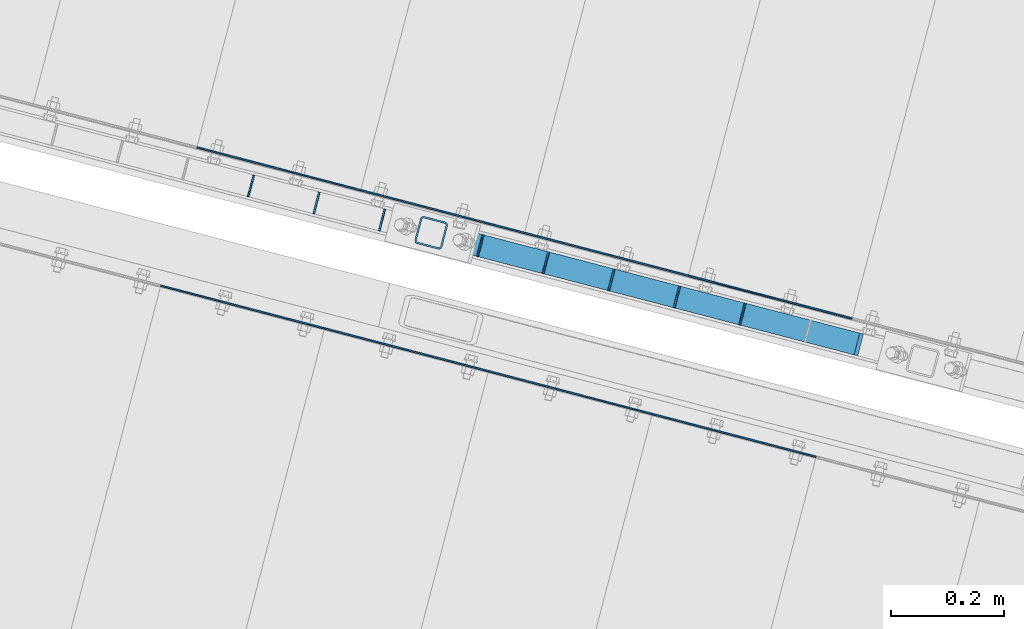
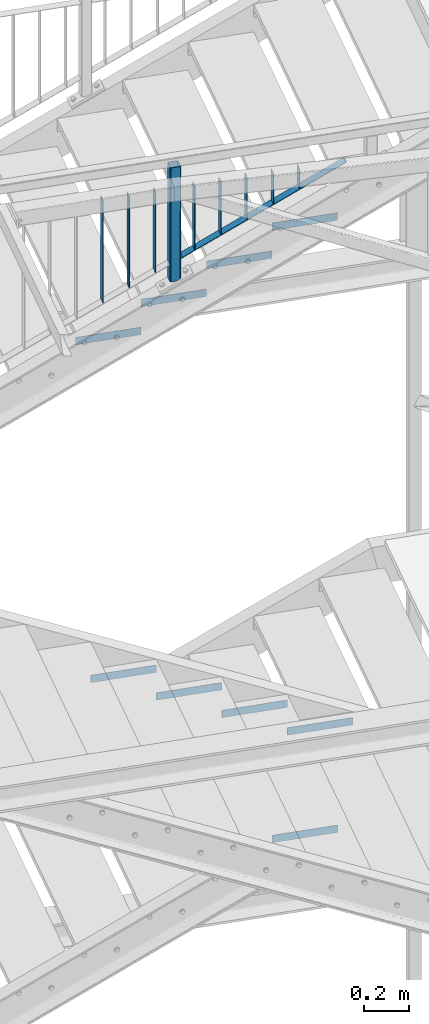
# One storey, part 67 of 169: 19 discrete accessories, 10 elements without a shape of their own.
"""IFC2X3 building model written with IfcOpenShell, lengths in millimetres."""

from ifc_helpers import new_model, si_unit, frame, origin_with_axes, origin_2d_with_axis, place, context, subcontext, project, spatial, polyline, rectangle, hollow_rectangle, outline, extrude, boolean, clip, halfspace, material, type_object, element, aggregate, save


model = new_model("IFC2X3")

# Units and contexts
model_context = context("Model", 3, precision=1e-05, world=origin_with_axes())
body_context = subcontext(model_context, "Body", "Model", "MODEL_VIEW")
ifc_project = project(units=[si_unit("LENGTHUNIT", "METRE", prefix="MILLI"), si_unit("AREAUNIT", "SQUARE_METRE"), si_unit("VOLUMEUNIT", "CUBIC_METRE"), si_unit("MASSUNIT", "GRAM", prefix="KILO"), si_unit("TIMEUNIT", "SECOND"), si_unit("PLANEANGLEUNIT", "RADIAN"), si_unit("SOLIDANGLEUNIT", "STERADIAN"), si_unit("THERMODYNAMICTEMPERATUREUNIT", "DEGREE_CELSIUS"), si_unit("LUMINOUSINTENSITYUNIT", "LUMEN")], contexts=[model_context])

# Site, building, storey
site_placement = place(None, origin_with_axes())
site = spatial("IfcSite", under=ifc_project, at=site_placement, Name="Undefined", CompositionType="ELEMENT")
building_placement = place(site_placement, origin_with_axes())
building = spatial("IfcBuilding", under=site, at=building_placement, Name="Undefined", CompositionType="ELEMENT")
storey_placement = place(building_placement, origin_with_axes())
storey = spatial("IfcBuildingStorey", under=building, at=storey_placement, Name="Undefined", CompositionType="ELEMENT", Elevation=0.0)

# Assembly, discrete accessories
assembly_1_placement = place(storey_placement, origin_with_axes())
assembly_1 = element("IfcElementAssembly", 1, at=assembly_1_placement, inside=storey, Name="Steel Assembly", AssemblyPlace="NOTDEFINED", PredefinedType="RIGID_FRAME")
ifc_material_1 = material(Name="STEEL/S235")
discrete_accessory_type_1 = type_object("IfcDiscreteAccessoryType", Name="PORĘCZ")
discrete_accessory_1_placement = place(assembly_1_placement, frame((-26371.7445928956, 6964.7239905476, 14257.1970276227), z_axis=(-0.967563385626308, 0.252628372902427, -1.72000000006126e-07), x_axis=(-3.45692487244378e-05, -0.000132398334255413, -0.999999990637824)))
discrete_accessory_1 = element("IfcDiscreteAccessory", 2, at=discrete_accessory_1_placement, type_object=discrete_accessory_type_1, material=ifc_material_1, Name="PORĘCZ", ObjectType="BL40*3", context=body_context, shape_type="Clipping", body=[
    clip(clip(extrude(outline(polyline([(953.32294910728, 20.0000000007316), (953.322949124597, -19.9999999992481), (398.49999999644, -19.9999999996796), (398.499999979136, 20.0000000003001), (953.32294910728, 20.0000000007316)])), frame((1.81898940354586e-12, -1.77635442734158e-15, -1.50000000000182), z_axis=(0.0, 0.0, 1.0), x_axis=(1.0, 0.0, 0.0)), (0.0, 0.0, 1.0), 3.0), halfspace(frame((398.499999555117, 1000.00000000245, -1.19107426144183e-08), z_axis=(1.0, 0.0, 0.0), x_axis=(-2.54700353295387e-10, 0.0, -1.0)), True)), halfspace(frame((953.658358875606, 1000.00000000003, 0.670820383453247), z_axis=(-0.89442719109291, -3.87067713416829e-10, 0.44721359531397), x_axis=(0.44721359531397, 3.3177479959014e-10, 0.89442719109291)), True)),
])
discrete_accessory_2_placement = place(assembly_1_placement, frame((-26255.6349124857, 6934.41652970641, 14317.1970269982), z_axis=(-0.967563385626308, 0.252628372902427, -1.72000000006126e-07), x_axis=(-3.45692487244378e-05, -0.000132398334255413, -0.999999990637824)))
discrete_accessory_2 = element("IfcDiscreteAccessory", 3, at=discrete_accessory_2_placement, type_object=discrete_accessory_type_1, material=ifc_material_1, Name="PORĘCZ", ObjectType="BL40*3", context=body_context, shape_type="Clipping", body=[
    clip(clip(extrude(outline(polyline([(953.32294910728, 20.0000000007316), (953.322949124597, -19.9999999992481), (458.49999993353, -19.9999999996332), (458.499999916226, 20.0000000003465), (953.32294910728, 20.0000000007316)])), frame((1.81898940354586e-12, -1.77635442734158e-15, -1.50000000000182), z_axis=(0.0, 0.0, 1.0), x_axis=(1.0, 0.0, 0.0)), (0.0, 0.0, 1.0), 3.0), halfspace(frame((458.499999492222, 1000.00000000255, -1.23291101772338e-08), z_axis=(1.0, 0.0, 0.0), x_axis=(-2.54700353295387e-10, 0.0, -1.0)), True)), halfspace(frame((953.658358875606, 1000.00000000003, 0.670820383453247), z_axis=(-0.89442719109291, -3.87067713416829e-10, 0.44721359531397), x_axis=(0.44721359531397, 3.3177479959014e-10, 0.89442719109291)), True)),
])
discrete_accessory_3_placement = place(assembly_1_placement, frame((-26139.5425164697, 6904.04286984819, 13877.1970310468), z_axis=(-0.967563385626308, 0.252628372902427, -1.72000000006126e-07), x_axis=(-3.45692487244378e-05, -0.000132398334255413, -0.999999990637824)))
discrete_accessory_3 = element("IfcDiscreteAccessory", 4, at=discrete_accessory_3_placement, type_object=discrete_accessory_type_1, material=ifc_material_1, Name="PORĘCZ", ObjectType="BL40*3", context=body_context, shape_type="Clipping", body=[
    clip(clip(extrude(outline(polyline([(453.32294900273, 19.9999999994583), (453.322948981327, -20.0000000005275), (18.4999998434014, -20.0000000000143), (18.4999998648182, 19.9999999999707), (453.32294900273, 19.9999999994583)])), frame((1.81898940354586e-12, -1.77635442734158e-15, -1.50000000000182), z_axis=(0.0, 0.0, 1.0), x_axis=(1.0, 0.0, 0.0)), (0.0, 0.0, 1.0), 3.0), halfspace(frame((18.5000003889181, 1000.0000000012, -1.23618519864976e-08), z_axis=(1.0, 0.0, 0.0), x_axis=(-2.54700353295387e-10, 0.0, -1.0)), True)), halfspace(frame((453.658359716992, 1000.00000000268, 0.670820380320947), z_axis=(-0.89442719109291, -3.87067713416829e-10, 0.44721359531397), x_axis=(0.44721359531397, 3.3177479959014e-10, 0.89442719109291)), True)),
])
discrete_accessory_4_placement = place(assembly_1_placement, frame((-25965.3745377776, 6858.59491807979, 14067.1970297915), z_axis=(-0.967563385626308, 0.252628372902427, -1.72000000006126e-07), x_axis=(-3.45692487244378e-05, -0.000132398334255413, -0.999999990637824)))
discrete_accessory_4 = element("IfcDiscreteAccessory", 5, at=discrete_accessory_4_placement, type_object=discrete_accessory_type_1, material=ifc_material_1, Name="PORĘCZ", ObjectType="BL40*3", context=body_context, shape_type="Clipping", body=[
    clip(clip(extrude(outline(polyline([(553.322949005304, 19.9999999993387), (553.3229489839, -20.0000000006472), (208.500000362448, -20.0000000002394), (208.500000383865, 19.9999999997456), (553.322949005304, 19.9999999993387)])), frame((1.81898940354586e-12, -1.77635442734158e-15, -1.50000000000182), z_axis=(0.0, 0.0, 1.0), x_axis=(1.0, 0.0, 0.0)), (0.0, 0.0, 1.0), 3.0), halfspace(frame((208.500000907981, 1000.00000000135, -1.29948602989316e-08), z_axis=(1.0, 0.0, 0.0), x_axis=(-2.54700353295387e-10, 0.0, -1.0)), True)), halfspace(frame((553.658359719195, 1000.00000000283, 0.67082037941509), z_axis=(-0.89442719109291, -3.87067713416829e-10, 0.44721359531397), x_axis=(0.44721359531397, 3.3177479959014e-10, 0.89442719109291)), True)),
])
discrete_accessory_5_placement = place(assembly_1_placement, frame((-25849.2683142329, 6828.27421743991, 14027.1970301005), z_axis=(-0.967563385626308, 0.252628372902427, -1.72000000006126e-07), x_axis=(-3.45692487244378e-05, -0.000132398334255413, -0.999999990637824)))
discrete_accessory_5 = element("IfcDiscreteAccessory", 6, at=discrete_accessory_5_placement, type_object=discrete_accessory_type_1, material=ifc_material_1, Name="PORĘCZ", ObjectType="BL40*3", context=body_context, shape_type="Clipping", body=[
    clip(clip(extrude(outline(polyline([(453.32294900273, 19.9999999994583), (453.322948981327, -20.0000000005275), (168.500000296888, -20.0000000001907), (168.500000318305, 19.9999999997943), (453.32294900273, 19.9999999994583)])), frame((1.81898940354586e-12, -1.77635442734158e-15, -1.50000000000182), z_axis=(0.0, 0.0, 1.0), x_axis=(1.0, 0.0, 0.0)), (0.0, 0.0, 1.0), 3.0), halfspace(frame((168.500000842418, 1000.00000000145, -1.34132278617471e-08), z_axis=(1.0, 0.0, 0.0), x_axis=(-2.54700353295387e-10, 0.0, -1.0)), True)), halfspace(frame((453.658359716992, 1000.00000000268, 0.670820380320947), z_axis=(-0.89442719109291, -3.87067713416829e-10, 0.44721359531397), x_axis=(0.44721359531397, 3.3177479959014e-10, 0.89442719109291)), True)),
])
discrete_accessory_6_placement = place(assembly_1_placement, frame((-25733.1620907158, 6797.95351678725, 13987.1970304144), z_axis=(-0.967563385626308, 0.252628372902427, -1.72000000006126e-07), x_axis=(-3.45692487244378e-05, -0.000132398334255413, -0.999999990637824)))
discrete_accessory_6 = element("IfcDiscreteAccessory", 7, at=discrete_accessory_6_placement, type_object=discrete_accessory_type_1, material=ifc_material_1, Name="PORĘCZ", ObjectType="BL40*3", context=body_context, shape_type="Clipping", body=[
    clip(clip(extrude(outline(polyline([(353.32294900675, 19.9999999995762), (353.322948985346, -20.0000000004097), (128.500000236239, -20.0000000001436), (128.500000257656, 19.9999999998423), (353.32294900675, 19.9999999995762)])), frame((1.81898940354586e-12, -1.77635442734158e-15, -1.50000000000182), z_axis=(0.0, 0.0, 1.0), x_axis=(1.0, 0.0, 0.0)), (0.0, 0.0, 1.0), 3.0), halfspace(frame((128.500000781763, 1000.00000000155, -1.38315954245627e-08), z_axis=(1.0, 0.0, 0.0), x_axis=(-2.54700353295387e-10, 0.0, -1.0)), True)), halfspace(frame((353.658359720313, 1000.00000000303, 0.670820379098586), z_axis=(-0.89442719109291, -3.87067713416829e-10, 0.44721359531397), x_axis=(0.44721359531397, 3.3177479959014e-10, 0.89442719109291)), True)),
])
discrete_accessory_7_placement = place(assembly_1_placement, frame((-25617.0558671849, 6767.63281614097, 13947.1970307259), z_axis=(-0.967563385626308, 0.252628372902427, -1.72000000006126e-07), x_axis=(-3.45692487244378e-05, -0.000132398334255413, -0.999999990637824)))
discrete_accessory_7 = element("IfcDiscreteAccessory", 8, at=discrete_accessory_7_placement, type_object=discrete_accessory_type_1, material=ifc_material_1, Name="PORĘCZ", ObjectType="BL40*3", context=body_context, shape_type="Clipping", body=[
    clip(clip(extrude(outline(polyline([(253.322948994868, 20.0000000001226), (253.32294893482, -19.9999999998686), (88.500000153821, -19.9999999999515), (88.5000002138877, 20.0000000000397), (253.322948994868, 20.0000000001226)])), frame((1.81898940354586e-12, -1.77635442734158e-15, -1.50000000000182), z_axis=(0.0, 0.0, 1.0), x_axis=(1.0, 0.0, 0.0)), (0.0, 0.0, 1.0), 3.0), halfspace(frame((88.5000016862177, 1000.0000000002, -1.38606992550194e-08), z_axis=(1.0, 0.0, 0.0), x_axis=(-2.54700353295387e-10, 0.0, -1.0)), True)), halfspace(frame((253.658360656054, 1000.00000000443, 0.670820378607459), z_axis=(-0.89442719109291, -3.87067713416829e-10, 0.44721359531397), x_axis=(0.44721359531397, 3.3177479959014e-10, 0.89442719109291)), True)),
])
discrete_accessory_8_placement = place(assembly_1_placement, frame((-25500.9496436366, 6737.31211550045, 13907.1970310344), z_axis=(-0.967563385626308, 0.252628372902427, -1.72000000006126e-07), x_axis=(-3.45692487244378e-05, -0.000132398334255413, -0.999999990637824)))
discrete_accessory_8 = element("IfcDiscreteAccessory", 9, at=discrete_accessory_8_placement, type_object=discrete_accessory_type_1, material=ifc_material_1, Name="PORĘCZ", ObjectType="BL40*3", context=body_context, shape_type="Clipping", body=[
    clip(clip(extrude(outline(polyline([(153.322949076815, 20.0000000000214), (153.322948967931, -19.9999999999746), (48.5000000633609, -19.9999999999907), (48.5000001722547, 20.0000000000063), (153.322949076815, 20.0000000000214)])), frame((1.81898940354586e-12, -1.77635442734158e-15, -1.50000000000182), z_axis=(0.0, 0.0, 1.0), x_axis=(1.0, 0.0, 0.0)), (0.0, 0.0, 1.0), 3.0), halfspace(frame((48.5000028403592, 999.999999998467, -1.5352270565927e-08), z_axis=(1.0, 0.0, 0.0), x_axis=(-2.54700353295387e-10, 0.0, -1.0)), True)), halfspace(frame((153.658361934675, 1000.00000000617, 0.670820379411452), z_axis=(-0.89442719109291, -3.87067713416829e-10, 0.44721359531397), x_axis=(0.44721359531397, 3.3177479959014e-10, 0.89442719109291)), True)),
])
discrete_accessory_9_placement = place(assembly_1_placement, frame((-26052.4759843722, 6881.2520325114, 13467.1970352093), z_axis=(-0.252628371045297, -0.967563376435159, 0.000136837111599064), x_axis=(0.8654304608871, -0.225898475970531, 0.447213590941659)))
discrete_accessory_9 = element("IfcDiscreteAccessory", 10, at=discrete_accessory_9_placement, type_object=discrete_accessory_type_1, material=ifc_material_1, Name="PORĘCZ", ObjectType="BL40*3", context=body_context, shape_type="CSG", body=[
    boolean("DIFFERENCE", boolean("DIFFERENCE", boolean("DIFFERENCE", boolean("DIFFERENCE", extrude(rectangle(XDim=3.0, YDim=40.0, at=origin_2d_with_axis()), frame((896.30909638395, 0.0, -6.86979927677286e-13), z_axis=(-1.0, -3.46944695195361e-18, -1.38777878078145e-17), x_axis=(1.73472347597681e-18, -1.0, 0.0)), (0.0, 0.0, 1.0), 889.25), extrude(rectangle(XDim=51.0, YDim=51.0, at=origin_2d_with_axis()), frame((62.609903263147, 125.219806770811, -1.03546508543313e-07), z_axis=(-0.44721359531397, -0.89442719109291, 6.42512531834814e-12), x_axis=(0.894427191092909, -0.447213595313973, -3.67723235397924e-10)), (0.0, 0.0, 1.0), 280.0)), extrude(rectangle(XDim=51.0, YDim=51.0, at=origin_2d_with_axis()), frame((1074.43066427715, 136.400146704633, -4.89881405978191e-07), z_axis=(-0.44721359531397, -0.89442719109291, 6.42512531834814e-12), x_axis=(0.894427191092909, -0.447213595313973, -3.67723235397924e-10)), (0.0, 0.0, 1.0), 280.0)), halfspace(frame((878.103894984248, -1.34164079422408, 1000.00000000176), z_axis=(-0.44721359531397, -0.89442719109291, 6.42512531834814e-12), x_axis=(0.894427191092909, -0.447213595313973, -3.67723235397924e-10)), True)), halfspace(frame((22.36067942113, -11.1803398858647, 1000.00000000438), z_axis=(0.894427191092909, -0.447213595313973, -3.67723235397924e-10), x_axis=(0.447213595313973, 0.894427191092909, -6.42523900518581e-12)), True)),
])
discrete_accessory_type_2 = type_object("IfcDiscreteAccessoryType", Name="STANCHION")
discrete_accessory_10_placement = place(assembly_1_placement, frame((-26052.4800290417, 6881.23654239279, 13350.1970363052), z_axis=(3.4552000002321e-05, 0.000132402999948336, 0.999999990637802), x_axis=(0.252628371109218, 0.967563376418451, -0.000136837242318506)))
discrete_accessory_10 = element("IfcDiscreteAccessory", 11, at=discrete_accessory_10_placement, type_object=discrete_accessory_type_2, material=ifc_material_1, Name="STANCHION", ObjectType="SHS50*3", context=body_context, shape_type="Clipping", body=[
    clip(clip(extrude(hollow_rectangle(XDim=50.0, YDim=50.0, WallThickness=3.0, InnerFilletRadius=3.0, OuterFilletRadius=6.0, at=origin_2d_with_axis()), frame((1.4210854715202e-13, -3.63798043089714e-12, 629.999999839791), z_axis=(-2.54700353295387e-10, 0.0, -1.0), x_axis=(0.0, 1.0, 0.0)), (0.0, 0.0, 1.0), 615.59), halfspace(frame((999.999999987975, -1.62071955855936e-08, 629.999999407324), z_axis=(-2.54700353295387e-10, 0.0, -1.0), x_axis=(0.0, 1.0, 0.0)), True)), halfspace(frame((999.999067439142, 2.68328154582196, 13.2372719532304), z_axis=(-0.00015298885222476, 0.447213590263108, 0.894427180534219), x_axis=(-7.64941891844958e-05, -0.894427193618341, 0.447213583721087)), True)),
])
aggregate(assembly_1, [discrete_accessory_1, discrete_accessory_2, discrete_accessory_3, discrete_accessory_4, discrete_accessory_5, discrete_accessory_6, discrete_accessory_7, discrete_accessory_8, discrete_accessory_9, discrete_accessory_10])

# Assembly, discrete accessory
assembly_2_placement = place(storey_placement, origin_with_axes())
assembly_2 = element("IfcElementAssembly", 12, at=assembly_2_placement, inside=storey, Name="Steel Assembly", AssemblyPlace="NOTDEFINED", PredefinedType="RIGID_FRAME")
ifc_material_2 = material(Name="STEEL/S235JR")
discrete_accessory_type_3 = type_object("IfcDiscreteAccessoryType", Name="ANGLE")
discrete_accessory_11_placement = place(assembly_2_placement, frame((-25306.5883815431, 6729.43108624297, 13530.0957858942), z_axis=(0.252562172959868, 0.967580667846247, 0.0), x_axis=(-0.967580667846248, 0.252562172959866, 0.0)))
discrete_accessory_11 = element("IfcDiscreteAccessory", 13, at=discrete_accessory_11_placement, type_object=discrete_accessory_type_3, material=ifc_material_2, Name="ANGLE", ObjectType="3*40", context=body_context, shape_type="SweptSolid", body=[
    extrude(rectangle(XDim=40.0, YDim=3.0, at=origin_2d_with_axis()), frame((300.000000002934, 1.81898940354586e-12, -1.81898940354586e-12), z_axis=(-1.0, -3.46944695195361e-18, -1.38777878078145e-17), x_axis=(1.73472347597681e-18, -1.0, 0.0)), (0.0, 0.0, 1.0), 300.0),
])
aggregate(assembly_2, [discrete_accessory_11])

assembly_3_placement = place(storey_placement, origin_with_axes())
assembly_3 = element("IfcElementAssembly", 14, at=assembly_3_placement, inside=storey, Name="Steel Assembly", AssemblyPlace="NOTDEFINED", PredefinedType="RIGID_FRAME")
discrete_accessory_12_placement = place(assembly_3_placement, frame((-25596.8625852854, 6805.19973905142, 13380.0957858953), z_axis=(0.252562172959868, 0.967580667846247, 0.0), x_axis=(-0.967580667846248, 0.252562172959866, 0.0)))
discrete_accessory_12 = element("IfcDiscreteAccessory", 15, at=discrete_accessory_12_placement, type_object=discrete_accessory_type_3, material=ifc_material_2, Name="ANGLE", ObjectType="3*40", context=body_context, shape_type="SweptSolid", body=[
    extrude(rectangle(XDim=40.0, YDim=3.0, at=origin_2d_with_axis()), frame((300.000000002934, 1.81898940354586e-12, -1.81898940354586e-12), z_axis=(-1.0, -3.46944695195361e-18, -1.38777878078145e-17), x_axis=(1.73472347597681e-18, -1.0, 0.0)), (0.0, 0.0, 1.0), 300.0),
])
aggregate(assembly_3, [discrete_accessory_12])

assembly_4_placement = place(storey_placement, origin_with_axes())
assembly_4 = element("IfcElementAssembly", 16, at=assembly_4_placement, inside=storey, Name="Steel Assembly", AssemblyPlace="NOTDEFINED", PredefinedType="RIGID_FRAME")
discrete_accessory_13_placement = place(assembly_4_placement, frame((-25887.1367890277, 6880.96839185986, 13230.0957858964), z_axis=(0.252562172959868, 0.967580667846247, 0.0), x_axis=(-0.967580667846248, 0.252562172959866, 0.0)))
discrete_accessory_13 = element("IfcDiscreteAccessory", 17, at=discrete_accessory_13_placement, type_object=discrete_accessory_type_3, material=ifc_material_2, Name="ANGLE", ObjectType="3*40", context=body_context, shape_type="SweptSolid", body=[
    extrude(rectangle(XDim=40.0, YDim=3.0, at=origin_2d_with_axis()), frame((300.000000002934, 1.81898940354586e-12, -1.81898940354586e-12), z_axis=(-1.0, -3.46944695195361e-18, -1.38777878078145e-17), x_axis=(1.73472347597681e-18, -1.0, 0.0)), (0.0, 0.0, 1.0), 300.0),
])
aggregate(assembly_4, [discrete_accessory_13])

assembly_5_placement = place(storey_placement, origin_with_axes())
assembly_5 = element("IfcElementAssembly", 18, at=assembly_5_placement, inside=storey, Name="Steel Assembly", AssemblyPlace="NOTDEFINED", PredefinedType="RIGID_FRAME")
discrete_accessory_14_placement = place(assembly_5_placement, frame((-26177.41099277, 6956.73704466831, 13080.0957858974), z_axis=(0.252562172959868, 0.967580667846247, 0.0), x_axis=(-0.967580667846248, 0.252562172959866, 0.0)))
discrete_accessory_14 = element("IfcDiscreteAccessory", 19, at=discrete_accessory_14_placement, type_object=discrete_accessory_type_3, material=ifc_material_2, Name="ANGLE", ObjectType="3*40", context=body_context, shape_type="SweptSolid", body=[
    extrude(rectangle(XDim=40.0, YDim=3.0, at=origin_2d_with_axis()), frame((300.000000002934, 1.81898940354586e-12, -1.81898940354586e-12), z_axis=(-1.0, -3.46944695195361e-18, -1.38777878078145e-17), x_axis=(1.73472347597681e-18, -1.0, 0.0)), (0.0, 0.0, 1.0), 300.0),
])
aggregate(assembly_5, [discrete_accessory_14])

assembly_6_placement = place(storey_placement, origin_with_axes())
assembly_6 = element("IfcElementAssembly", 20, at=assembly_6_placement, inside=storey, Name="Steel Assembly", AssemblyPlace="NOTDEFINED", PredefinedType="RIGID_FRAME")
discrete_accessory_15_placement = place(assembly_6_placement, frame((-26531.6520481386, 6787.5135813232, 11430.3215824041), z_axis=(-0.252694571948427, -0.96754609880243, 0.0), x_axis=(0.96754609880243, -0.252694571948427, 0.0)))
discrete_accessory_15 = element("IfcDiscreteAccessory", 21, at=discrete_accessory_15_placement, type_object=discrete_accessory_type_3, material=ifc_material_2, Name="ANGLE", ObjectType="3*40", context=body_context, shape_type="SweptSolid", body=[
    extrude(rectangle(XDim=40.0, YDim=3.0, at=origin_2d_with_axis()), frame((300.000000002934, 1.81898940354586e-12, -1.81898940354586e-12), z_axis=(-1.0, -3.46944695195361e-18, -1.38777878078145e-17), x_axis=(1.73472347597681e-18, -1.0, 0.0)), (0.0, 0.0, 1.0), 300.0),
])
aggregate(assembly_6, [discrete_accessory_15])

assembly_7_placement = place(storey_placement, origin_with_axes())
assembly_7 = element("IfcElementAssembly", 22, at=assembly_7_placement, inside=storey, Name="Steel Assembly", AssemblyPlace="NOTDEFINED", PredefinedType="RIGID_FRAME")
discrete_accessory_16_placement = place(assembly_7_placement, frame((-26241.3882150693, 6711.70520897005, 11280.321582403), z_axis=(-0.252694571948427, -0.96754609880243, 0.0), x_axis=(0.96754609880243, -0.252694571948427, 0.0)))
discrete_accessory_16 = element("IfcDiscreteAccessory", 23, at=discrete_accessory_16_placement, type_object=discrete_accessory_type_3, material=ifc_material_2, Name="ANGLE", ObjectType="3*40", context=body_context, shape_type="SweptSolid", body=[
    extrude(rectangle(XDim=40.0, YDim=3.0, at=origin_2d_with_axis()), frame((300.000000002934, 1.81898940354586e-12, -1.81898940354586e-12), z_axis=(-1.0, -3.46944695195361e-18, -1.38777878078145e-17), x_axis=(1.73472347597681e-18, -1.0, 0.0)), (0.0, 0.0, 1.0), 300.0),
])
aggregate(assembly_7, [discrete_accessory_16])

assembly_8_placement = place(storey_placement, origin_with_axes())
assembly_8 = element("IfcElementAssembly", 24, at=assembly_8_placement, inside=storey, Name="Steel Assembly", AssemblyPlace="NOTDEFINED", PredefinedType="RIGID_FRAME")
discrete_accessory_17_placement = place(assembly_8_placement, frame((-25951.1243820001, 6635.89683661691, 11130.3215824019), z_axis=(-0.252694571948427, -0.96754609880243, 0.0), x_axis=(0.96754609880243, -0.252694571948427, 0.0)))
discrete_accessory_17 = element("IfcDiscreteAccessory", 25, at=discrete_accessory_17_placement, type_object=discrete_accessory_type_3, material=ifc_material_2, Name="ANGLE", ObjectType="3*40", context=body_context, shape_type="SweptSolid", body=[
    extrude(rectangle(XDim=40.0, YDim=3.0, at=origin_2d_with_axis()), frame((300.000000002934, 1.81898940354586e-12, -1.81898940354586e-12), z_axis=(-1.0, -3.46944695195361e-18, -1.38777878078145e-17), x_axis=(1.73472347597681e-18, -1.0, 0.0)), (0.0, 0.0, 1.0), 300.0),
])
aggregate(assembly_8, [discrete_accessory_17])

assembly_9_placement = place(storey_placement, origin_with_axes())
assembly_9 = element("IfcElementAssembly", 26, at=assembly_9_placement, inside=storey, Name="Steel Assembly", AssemblyPlace="NOTDEFINED", PredefinedType="RIGID_FRAME")
discrete_accessory_18_placement = place(assembly_9_placement, frame((-25660.8605489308, 6560.08846426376, 10980.3215824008), z_axis=(-0.252694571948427, -0.96754609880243, 0.0), x_axis=(0.96754609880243, -0.252694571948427, 0.0)))
discrete_accessory_18 = element("IfcDiscreteAccessory", 27, at=discrete_accessory_18_placement, type_object=discrete_accessory_type_3, material=ifc_material_2, Name="ANGLE", ObjectType="3*40", context=body_context, shape_type="SweptSolid", body=[
    extrude(rectangle(XDim=40.0, YDim=3.0, at=origin_2d_with_axis()), frame((300.000000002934, 1.81898940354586e-12, -1.81898940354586e-12), z_axis=(-1.0, -3.46944695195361e-18, -1.38777878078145e-17), x_axis=(1.73472347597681e-18, -1.0, 0.0)), (0.0, 0.0, 1.0), 300.0),
])
aggregate(assembly_9, [discrete_accessory_18])

assembly_10_placement = place(storey_placement, origin_with_axes())
assembly_10 = element("IfcElementAssembly", 28, at=assembly_10_placement, inside=storey, Name="Steel Assembly", AssemblyPlace="NOTDEFINED", PredefinedType="RIGID_FRAME")
discrete_accessory_19_placement = place(assembly_10_placement, frame((-25306.7024589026, 6728.99417127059, 10230.0958168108), z_axis=(0.252562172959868, 0.967580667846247, 0.0), x_axis=(-0.967580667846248, 0.252562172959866, 0.0)))
discrete_accessory_19 = element("IfcDiscreteAccessory", 29, at=discrete_accessory_19_placement, type_object=discrete_accessory_type_3, material=ifc_material_2, Name="ANGLE", ObjectType="3*40", context=body_context, shape_type="SweptSolid", body=[
    extrude(rectangle(XDim=40.0, YDim=3.0, at=origin_2d_with_axis()), frame((300.000000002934, 1.81898940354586e-12, -1.81898940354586e-12), z_axis=(-1.0, -3.46944695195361e-18, -1.38777878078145e-17), x_axis=(1.73472347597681e-18, -1.0, 0.0)), (0.0, 0.0, 1.0), 300.0),
])
aggregate(assembly_10, [discrete_accessory_19])

save(model, "model.ifc")
